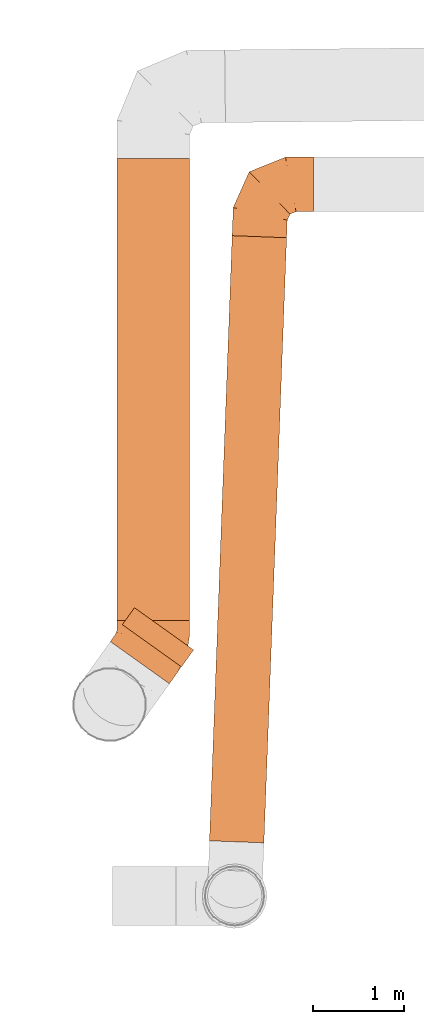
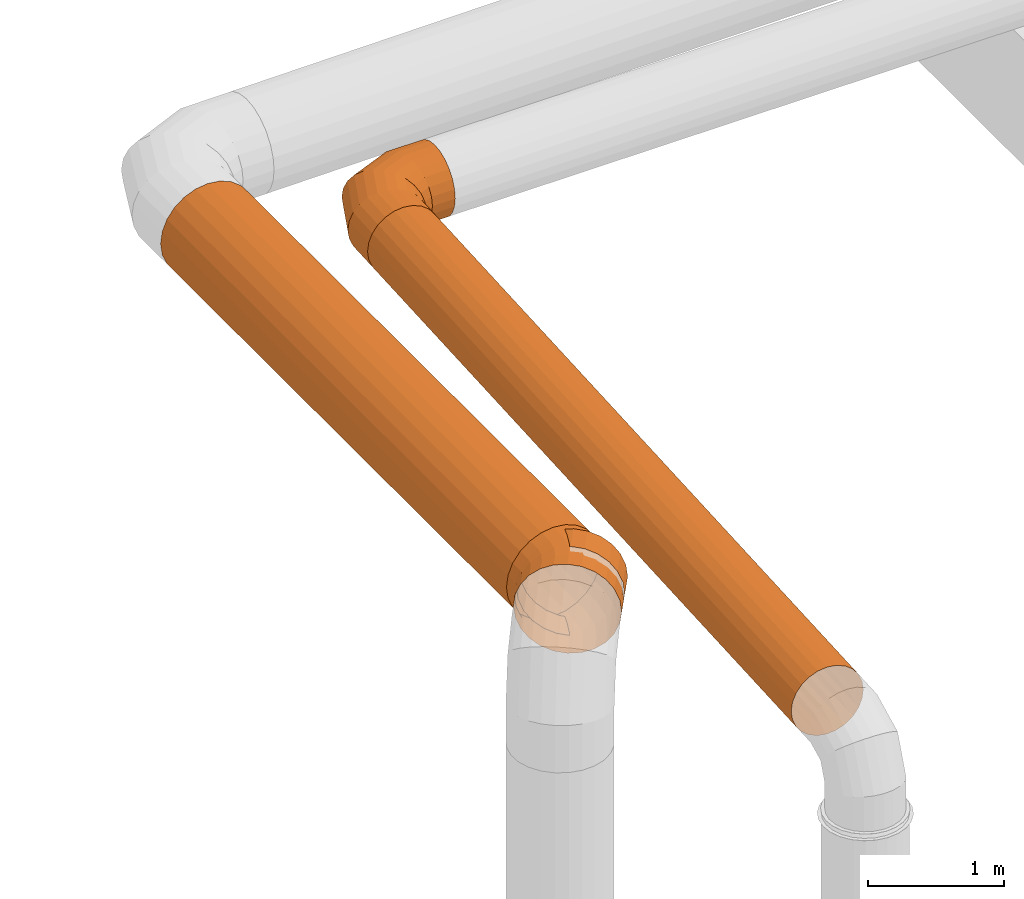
# One storey, part 291 of 301: 5 proxies.
"""IFC2X3 building model written with IfcOpenShell, lengths in millimetres."""

from ifc_helpers import new_model, entity, si_unit, converted_unit, derived_unit, money_unit, direction, frame, origin_with_axes, place, context, subcontext, project, spatial, open_shell, surface_model, type_object, element, save


model = new_model("IFC2X3")

# Units and contexts
model_context = context("Model", 3, precision=0.01, world=origin_with_axes(), true_north=direction((0.0, 1.0)))
body_context = subcontext(model_context, "Body", "Model", "MODEL_VIEW")
ifc_project = project(units=[si_unit("LENGTHUNIT", "METRE", prefix="MILLI"), si_unit("AREAUNIT", "SQUARE_METRE"), si_unit("VOLUMEUNIT", "CUBIC_METRE"), converted_unit("PLANEANGLEUNIT", "DEGREE", entity("IfcPlaneAngleMeasure", 0.0174532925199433), si_unit("PLANEANGLEUNIT", "RADIAN"), dimensions=[0, 0, 0, 0, 0, 0, 0]), money_unit("EUR"), converted_unit("TIMEUNIT", "Year", entity("IfcTimeMeasure", 31557600.0), si_unit("TIMEUNIT", "SECOND"), dimensions=[0, 0, 1, 0, 0, 0, 0]), si_unit("MASSUNIT", "GRAM", prefix="KILO"), si_unit("THERMODYNAMICTEMPERATUREUNIT", "DEGREE_CELSIUS"), si_unit("LUMINOUSINTENSITYUNIT", "LUMEN"), si_unit("ENERGYUNIT", "JOULE", prefix="MEGA"), derived_unit("THERMALCONDUCTANCEUNIT", [(si_unit("POWERUNIT", "WATT"), 1), (si_unit("LENGTHUNIT", "METRE"), -1), (si_unit("THERMODYNAMICTEMPERATUREUNIT", "KELVIN"), -1)]), derived_unit("SPECIFICHEATCAPACITYUNIT", [(si_unit("ENERGYUNIT", "JOULE"), 1), (si_unit("MASSUNIT", "GRAM", prefix="KILO"), -1), (si_unit("THERMODYNAMICTEMPERATUREUNIT", "KELVIN"), -1)]), derived_unit("MASSDENSITYUNIT", [(si_unit("MASSUNIT", "GRAM", prefix="KILO"), 1), (si_unit("VOLUMEUNIT", "CUBIC_METRE"), -1)])], contexts=[model_context])

# Site, building, storey
site_placement = place(None, frame((0.0, 0.0, 8650.0), z_axis=(0.0, 0.0, 1.0), x_axis=(1.0, 0.0, 0.0)))
site = spatial("IfcSite", under=ifc_project, at=site_placement, Name="43301:001:0844", CompositionType="ELEMENT")
building_placement = place(site_placement, origin_with_axes())
building = spatial("IfcBuilding", under=site, at=building_placement, Name="Kuressaare Ametikooli tuulikute mehaanikute õppekorpus", CompositionType="ELEMENT")
storey_placement = place(building_placement, origin_with_axes())
storey = spatial("IfcBuildingStorey", under=building, at=storey_placement, Name="1.korrus", CompositionType="ELEMENT", Elevation=0.0)

# Proxies
building_element_proxy_type = type_object("IfcBuildingElementProxyType", Name="IfcBuildingElementProxy", PredefinedType="NOTDEFINED")
proxy_1_placement = place(storey_placement, frame((70808.29751720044, 44112.69956190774, 6479.025789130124), z_axis=(1.0, 0.0, 0.0), x_axis=(0.0, 1.0, 0.0)))
element("IfcBuildingElementProxy", 1, at=proxy_1_placement, inside=storey, type_object=building_element_proxy_type, context=body_context, shape_type="SurfaceModel", body=[
    surface_model("IfcShellBasedSurfaceModel", [(0.0, -400.9999999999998, 0.0), (0.0, -387.3362563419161, -103.7864370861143), (5100.980131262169, -387.3362563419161, -103.7864370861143), (5100.980131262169, -400.9999999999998, 0.0), (0.0, -347.2761869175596, -200.5000000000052), (5100.980131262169, -347.2761869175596, -200.5000000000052), (0.0, -387.3362563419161, 103.7864370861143), (5100.980131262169, -387.3362563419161, 103.7864370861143), (0.0, -283.5498192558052, -283.5498192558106), (5100.980131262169, -283.5498192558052, -283.5498192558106), (0.0, -347.2761869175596, 200.5000000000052), (5100.980131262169, -347.2761869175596, 200.5000000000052), (0.0, -200.4999999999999, -347.2761869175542), (5100.980131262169, -200.4999999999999, -347.2761869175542), (0.0, -283.5498192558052, 283.5498192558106), (5100.980131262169, -283.5498192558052, 283.5498192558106), (0.0, -103.7864370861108, -387.3362563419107), (5100.980131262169, -103.7864370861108, -387.3362563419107), (0.0, -200.4999999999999, 347.2761869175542), (5100.980131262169, -200.4999999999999, 347.2761869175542), (0.0, 0.0, -400.9999999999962), (5100.980131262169, 0.0, -400.9999999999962), (0.0, -103.7864370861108, 387.3362563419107), (5100.980131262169, -103.7864370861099, 387.3362563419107), (0.0, 103.7864370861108, -387.3362563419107), (5100.980131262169, 103.7864370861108, -387.3362563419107), (0.0, 0.0, 400.9999999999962), (5100.980131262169, 0.0, 400.9999999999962), (0.0, 200.4999999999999, -347.2761869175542), (5100.980131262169, 200.4999999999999, -347.2761869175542), (0.0, 103.7864370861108, 387.3362563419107), (5100.980131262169, 103.7864370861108, 387.3362563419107), (0.0, 283.5498192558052, -283.5498192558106), (5100.980131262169, 283.5498192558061, -283.5498192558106), (0.0, 200.4999999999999, 347.2761869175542), (5100.980131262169, 200.5000000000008, 347.2761869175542), (0.0, 347.2761869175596, -200.5000000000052), (5100.980131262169, 347.2761869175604, -200.5000000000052), (0.0, 283.5498192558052, 283.5498192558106), (5100.980131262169, 283.5498192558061, 283.5498192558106), (0.0, 387.3362563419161, -103.7864370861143), (5100.980131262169, 387.3362563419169, -103.7864370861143), (0.0, 347.2761869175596, 200.5000000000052), (5100.980131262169, 347.2761869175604, 200.5000000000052), (0.0, 400.9999999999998, 0.0), (5100.980131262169, 401.0000000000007, 0.0), (0.0, 387.3362563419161, 103.7864370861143), (5100.980131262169, 387.3362563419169, 103.7864370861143)], [open_shell([[[0, 1, 2, 3]], [[1, 4, 5, 2]], [[6, 0, 3, 7]], [[4, 8, 9, 5]], [[10, 6, 7, 11]], [[8, 12, 13, 9]], [[14, 10, 11, 15]], [[12, 16, 17, 13]], [[18, 14, 15, 19]], [[16, 20, 21, 17]], [[22, 18, 19, 23]], [[20, 24, 25, 21]], [[26, 22, 23, 27]], [[24, 28, 29, 25]], [[30, 26, 27, 31]], [[28, 32, 33, 29]], [[34, 30, 31, 35]], [[32, 36, 37, 33]], [[38, 34, 35, 39]], [[36, 40, 41, 37]], [[42, 38, 39, 43]], [[40, 44, 45, 41]], [[46, 42, 43, 47]], [[44, 46, 47, 45]]])]),
])
proxy_2_placement = place(storey_placement, frame((70659.32821880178, 43647.77050756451, 6479.025789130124), z_axis=(1.0, 0.0, 0.0), x_axis=(0.0, 1.0, 0.0)))
element("IfcBuildingElementProxy", 2, at=proxy_2_placement, inside=storey, type_object=building_element_proxy_type, context=body_context, shape_type="SurfaceModel", body=[
    surface_model("IfcShellBasedSurfaceModel", [(233.0456884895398, 0.0, -326.329139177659), (225.1048492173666, 103.7864370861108, -315.2097434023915), (303.0014873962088, 103.7864370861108, -259.5804002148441), (310.0786272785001, 0.0, -271.3166009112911), (201.8234864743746, 200.4999999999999, -282.6093245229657), (282.2523631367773, 200.4999999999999, -225.1716008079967), (334.4470136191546, 103.7864370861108, -243.7998664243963), (338.6668801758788, 0.0, -256.9699530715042), (225.1048492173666, -103.7864370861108, -315.2097434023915), (303.0014873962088, -103.7864370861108, -259.5804002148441), (164.7881866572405, 283.5498192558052, -230.749547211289), (249.2452730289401, 283.5498192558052, -170.4351055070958), (322.0749908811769, 200.4999999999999, -205.1871261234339), (369.2080531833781, 103.7864370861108, -238.3669579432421), (370.2693848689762, 0.0, -252.0307016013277), (334.4470136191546, -103.7864370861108, -243.7998664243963), (201.8234864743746, -200.5000000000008, -282.6093245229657), (282.2523631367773, -200.5000000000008, -225.1716008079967), (116.5228442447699, 347.2761869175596, -163.1645695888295), (206.2295957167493, 347.2761869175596, -99.1011160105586), (302.3939448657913, 283.5498192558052, -143.7631266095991), (366.0963861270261, 200.4999999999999, -198.3068885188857), (464.929054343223, 103.7864370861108, -238.3669579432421), (464.929054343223, 0.0, -252.0307016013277), (369.2080531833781, -103.7864370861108, -238.3669579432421), (322.0749908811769, -200.5000000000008, -205.1871261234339), (164.7881866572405, -283.5498192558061, -230.749547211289), (249.2452730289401, -283.5498192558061, -170.4351055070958), (60.31666256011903, 387.3362563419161, -84.46019619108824), (156.1367785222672, 387.3362563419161, -16.03092581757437), (276.7451063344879, 347.2761869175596, -63.71381194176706), (361.1464386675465, 283.5498192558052, -134.5805208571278), (464.929054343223, 200.4999999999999, -198.3068885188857), (464.929054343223, -103.7864370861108, -238.3669579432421), (366.0963861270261, -200.5000000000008, -198.3068885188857), (302.3939448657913, -283.5498192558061, -143.7631266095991), (116.5228442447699, -347.2761869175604, -163.1645695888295), (206.2295957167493, -347.2761869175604, -99.1011160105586), (0.0, 400.9999999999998, 0.0), (102.3805641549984, 400.9999999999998, 73.11436889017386), (246.8764012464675, 387.3362563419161, 29.50558937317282), (354.6955415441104, 347.2761869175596, -51.53070160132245), (464.929054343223, 283.5498192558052, -134.5805208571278), (464.929054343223, -200.5000000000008, -198.3068885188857), (361.1464386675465, -283.5498192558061, -134.5805208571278), (276.7451063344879, -347.2761869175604, -63.71381194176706), (60.31666256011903, -387.3362563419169, -84.46019619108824), (156.1367785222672, -387.3362563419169, -16.03092581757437), (-60.31666256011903, 387.3362563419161, 84.46019619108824), (48.62434978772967, 387.3362563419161, 162.2596635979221), (214.823332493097, 400.9999999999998, 129.54232918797), (347.1833127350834, 387.3362563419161, 45.18286131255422), (464.929054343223, 347.2761869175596, -51.53070160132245), (464.929054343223, -283.5498192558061, -134.5805208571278), (354.6955415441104, -347.2761869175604, -51.53070160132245), (246.8764012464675, -387.3362563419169, 29.50558937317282), (0.0, -400.9999999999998, 0.0), (102.3805641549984, -400.9999999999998, 73.11436889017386), (-116.5228442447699, 347.2761869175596, 163.1645695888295), (-1.468467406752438, 347.2761869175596, 245.3298537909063), (182.7702637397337, 387.3362563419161, 229.5790690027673), (339.1216982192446, 400.9999999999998, 148.9692983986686), (464.929054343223, 387.3362563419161, 45.18286131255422), (464.929054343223, -347.2761869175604, -51.53070160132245), (347.1833127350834, -387.3362563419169, 45.18286131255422), (214.823332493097, -400.9999999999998, 129.54232918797), (-60.31666256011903, -387.3362563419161, 84.46019619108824), (48.62434978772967, -387.3362563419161, 162.2596635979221), (-164.7881866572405, 283.5498192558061, 230.749547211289), (-44.48414471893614, 283.5498192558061, 316.6638432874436), (152.9015586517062, 347.2761869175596, 322.7984703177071), (331.060083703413, 387.3362563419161, 252.7557354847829), (464.929054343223, 400.9999999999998, 148.9692983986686), (464.929054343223, -387.3362563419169, 45.18286131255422), (339.1216982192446, -400.9999999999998, 148.9692983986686), (182.7702637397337, -387.3362563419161, 229.5790690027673), (-116.5228442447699, -347.2761869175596, 163.1645695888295), (-1.468467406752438, -347.2761869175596, 245.3298537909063), (-201.8234864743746, 200.4999999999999, 282.6093245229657), (-77.49123482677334, 200.4999999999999, 371.4003385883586), (127.2527201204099, 283.5498192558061, 402.8477849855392), (323.5478548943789, 347.2761869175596, 349.4692983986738), (464.929054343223, 387.3362563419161, 252.7557354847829), (464.929054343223, -400.9999999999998, 148.9692983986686), (331.060083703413, -387.3362563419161, 252.7557354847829), (152.9015586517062, -347.2761869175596, 322.7984703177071), (-164.7881866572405, -283.5498192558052, 230.7495472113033), (-44.48414471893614, -283.5498192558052, 316.6638432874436), (-225.1048492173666, 103.7864370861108, 315.2097434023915), (-98.24035908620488, 103.7864370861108, 405.8091379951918), (107.5716741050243, 200.4999999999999, 464.271784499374), (317.0969577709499, 283.5498192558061, 432.5191176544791), (464.929054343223, 347.2761869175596, 349.4692983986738), (464.929054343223, -387.3362563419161, 252.7557354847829), (323.5478548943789, -347.2761869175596, 349.4692983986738), (127.2527201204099, -283.5498192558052, 402.8477849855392), (-201.8234864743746, -200.4999999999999, 282.6093245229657), (-77.49123482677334, -200.4999999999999, 371.4003385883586), (-233.0456884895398, 0.0, 326.329139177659), (-105.3174989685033, 0.0, 417.5453386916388), (95.19965136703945, 103.7864370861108, 502.8845248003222), (312.1470103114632, 200.4999999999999, 496.245485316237), (464.929054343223, 283.5498192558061, 432.5191176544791), (464.929054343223, -347.2761869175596, 349.4692983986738), (317.0969577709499, -283.5498192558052, 432.5191176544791), (107.5716741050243, -200.4999999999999, 464.271784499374), (-225.1048492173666, -103.7864370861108, 315.2097434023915), (-98.24035908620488, -103.7864370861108, 405.8091379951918), (90.97978481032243, 0.0, 516.0546114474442), (309.0353432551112, 103.7864370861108, 536.3055547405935), (464.929054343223, 200.4999999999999, 496.245485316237), (464.929054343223, -283.5498192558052, 432.5191176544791), (312.1470103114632, -200.4999999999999, 496.245485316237), (95.19965136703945, -103.7864370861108, 502.8845248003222), (307.9740115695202, 0.0, 549.9692983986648), (464.929054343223, 103.7864370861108, 536.3055547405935), (464.929054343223, -200.4999999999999, 496.245485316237), (309.0353432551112, -103.7864370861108, 536.3055547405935), (464.929054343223, 0.0, 549.9692983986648), (464.929054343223, -103.7864370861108, 536.3055547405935)], [open_shell([[[0, 1, 2, 3]], [[1, 4, 5, 2]], [[3, 2, 6, 7]], [[8, 0, 3, 9]], [[4, 10, 11, 5]], [[2, 5, 12, 6]], [[7, 6, 13, 14]], [[9, 3, 7, 15]], [[16, 8, 9, 17]], [[10, 18, 19, 11]], [[5, 11, 20, 12]], [[6, 12, 21, 13]], [[14, 13, 22, 23]], [[15, 7, 14, 24]], [[17, 9, 15, 25]], [[26, 16, 17, 27]], [[18, 28, 29, 19]], [[11, 19, 30, 20]], [[12, 20, 31, 21]], [[13, 21, 32, 22]], [[24, 14, 23, 33]], [[25, 15, 24, 34]], [[27, 17, 25, 35]], [[36, 26, 27, 37]], [[28, 38, 39, 29]], [[19, 29, 40, 30]], [[20, 30, 41, 31]], [[21, 31, 42, 32]], [[34, 24, 33, 43]], [[35, 25, 34, 44]], [[37, 27, 35, 45]], [[46, 36, 37, 47]], [[38, 48, 49, 39]], [[29, 39, 50, 40]], [[30, 40, 51, 41]], [[31, 41, 52, 42]], [[44, 34, 43, 53]], [[45, 35, 44, 54]], [[47, 37, 45, 55]], [[56, 46, 47, 57]], [[48, 58, 59, 49]], [[39, 49, 60, 50]], [[40, 50, 61, 51]], [[41, 51, 62, 52]], [[54, 44, 53, 63]], [[55, 45, 54, 64]], [[57, 47, 55, 65]], [[66, 56, 57, 67]], [[58, 68, 69, 59]], [[49, 59, 70, 60]], [[50, 60, 71, 61]], [[51, 61, 72, 62]], [[64, 54, 63, 73]], [[65, 55, 64, 74]], [[67, 57, 65, 75]], [[76, 66, 67, 77]], [[68, 78, 79, 69]], [[59, 69, 80, 70]], [[60, 70, 81, 71]], [[61, 71, 82, 72]], [[74, 64, 73, 83]], [[75, 65, 74, 84]], [[77, 67, 75, 85]], [[86, 76, 77, 87]], [[78, 88, 89, 79]], [[69, 79, 90, 80]], [[70, 80, 91, 81]], [[71, 81, 92, 82]], [[84, 74, 83, 93]], [[85, 75, 84, 94]], [[87, 77, 85, 95]], [[96, 86, 87, 97]], [[88, 98, 99, 89]], [[79, 89, 100, 90]], [[80, 90, 101, 91]], [[81, 91, 102, 92]], [[94, 84, 93, 103]], [[95, 85, 94, 104]], [[97, 87, 95, 105]], [[106, 96, 97, 107]], [[98, 106, 107, 99]], [[89, 99, 108, 100]], [[90, 100, 109, 101]], [[91, 101, 110, 102]], [[104, 94, 103, 111]], [[105, 95, 104, 112]], [[107, 97, 105, 113]], [[99, 107, 113, 108]], [[100, 108, 114, 109]], [[101, 109, 115, 110]], [[112, 104, 111, 116]], [[113, 105, 112, 117]], [[108, 113, 117, 114]], [[109, 114, 118, 115]], [[117, 112, 116, 119]], [[114, 117, 119, 118]]])]),
])
proxy_3_placement = place(storey_placement, frame((70792.67537424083, 43834.49381803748, 6479.025789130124), z_axis=(1.0, 0.0, 0.0), x_axis=(0.0, 1.0, 0.0)))
element("IfcBuildingElementProxy", 3, at=proxy_3_placement, inside=storey, type_object=building_element_proxy_type, context=body_context, shape_type="SurfaceModel", body=[
    surface_model("IfcShellBasedSurfaceModel", [(0.0, -400.9999999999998, 0.0), (60.31666256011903, -387.3362563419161, -84.46019619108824), (247.0399730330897, -387.3362563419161, 48.88695924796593), (186.7233104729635, -400.9999999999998, 133.3471554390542), (116.5228442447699, -347.2761869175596, -163.1645695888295), (303.2461547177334, -347.2761869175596, -29.81741414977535), (-60.31666256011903, -387.3362563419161, 84.46019619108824), (126.4066479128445, -387.3362563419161, 217.8073516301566), (164.7881866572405, -283.5498192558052, -230.7495472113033), (351.5114971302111, -283.5498192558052, -97.40239177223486), (-116.5228442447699, -347.2761869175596, 163.1645695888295), (70.20046622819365, -347.2761869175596, 296.5117250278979), (201.8234864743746, -200.4999999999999, -282.6093245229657), (388.5467969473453, -200.4999999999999, -149.2621690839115), (-164.7881866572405, -283.5498192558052, 230.7495472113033), (21.93512381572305, -283.5498192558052, 364.0967026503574), (225.1048492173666, -103.7864370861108, -315.2097434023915), (411.8281596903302, -103.7864370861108, -181.8625879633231), (-201.8234864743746, -200.4999999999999, 282.6093245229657), (-15.10017600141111, -200.4999999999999, 415.9564799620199), (233.0456884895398, 0.0, -326.329139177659), (419.7689989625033, 0.0, -192.9819837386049), (-225.1048492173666, -103.7864370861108, 315.2097434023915), (-38.38153874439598, -103.7864370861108, 448.5568988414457), (225.1048492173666, 103.7864370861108, -315.2097434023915), (411.8281596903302, 103.7864370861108, -181.8625879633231), (-233.0456884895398, 0.0, 326.329139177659), (-46.32237801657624, 0.0, 459.6762946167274), (201.8234864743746, 200.4999999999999, -282.6093245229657), (388.5467969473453, 200.4999999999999, -149.2621690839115), (-225.1048492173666, 103.7864370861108, 315.2097434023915), (-38.38153874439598, 103.7864370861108, 448.5568988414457), (164.7881866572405, 283.5498192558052, -230.7495472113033), (351.5114971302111, 283.5498192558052, -97.40239177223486), (-201.8234864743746, 200.4999999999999, 282.6093245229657), (-15.10017600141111, 200.4999999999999, 415.9564799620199), (116.5228442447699, 347.2761869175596, -163.1645695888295), (303.2461547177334, 347.2761869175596, -29.81741414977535), (-164.7881866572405, 283.5498192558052, 230.749547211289), (21.93512381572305, 283.5498192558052, 364.0967026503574), (60.31666256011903, 387.3362563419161, -84.46019619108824), (247.0399730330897, 387.3362563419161, 48.88695924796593), (-116.5228442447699, 347.2761869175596, 163.1645695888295), (70.20046622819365, 347.2761869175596, 296.5117250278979), (0.0, 400.9999999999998, 0.0), (186.7233104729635, 400.9999999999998, 133.3471554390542), (-60.31666256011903, 387.3362563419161, 84.46019619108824), (126.4066479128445, 387.3362563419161, 217.8073516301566)], [open_shell([[[0, 1, 2, 3]], [[1, 4, 5, 2]], [[6, 0, 3, 7]], [[4, 8, 9, 5]], [[10, 6, 7, 11]], [[8, 12, 13, 9]], [[14, 10, 11, 15]], [[12, 16, 17, 13]], [[18, 14, 15, 19]], [[16, 20, 21, 17]], [[22, 18, 19, 23]], [[20, 24, 25, 21]], [[26, 22, 23, 27]], [[24, 28, 29, 25]], [[30, 26, 27, 31]], [[28, 32, 33, 29]], [[34, 30, 31, 35]], [[32, 36, 37, 33]], [[38, 34, 35, 39]], [[36, 40, 41, 37]], [[42, 38, 39, 43]], [[40, 44, 45, 41]], [[46, 42, 43, 47]], [[44, 46, 47, 45]]])]),
])
proxy_4_placement = place(storey_placement, frame((71728.9352686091, 41669.13201647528, 6479.025789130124), z_axis=(1.0, 0.0, 0.0), x_axis=(0.0, 1.0, 0.0)))
element("IfcBuildingElementProxy", 4, at=proxy_4_placement, inside=storey, type_object=building_element_proxy_type, context=body_context, shape_type="SurfaceModel", body=[
    surface_model("IfcShellBasedSurfaceModel", [(0.0, -301.0000000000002, 0.0), (2.916778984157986, -290.7436737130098, -77.84991070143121), (6685.63515775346, -290.7436737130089, 172.529471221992), (6682.718378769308, -300.9999999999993, 250.3793819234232), (5.634784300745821, -260.6736465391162, -150.3944786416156), (6688.353163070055, -260.6736465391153, 99.98490328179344), (-2.916778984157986, -290.7436737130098, 77.84991070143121), (6679.801599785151, -290.7436737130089, 328.2292926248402), (7.968788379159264, -212.8391411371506, -212.6899114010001), (6690.687167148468, -212.8391411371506, 37.6894705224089), (-5.634784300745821, -260.6736465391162, 150.3944786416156), (6677.083594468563, -260.6736465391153, 400.7738605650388), (9.759732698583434, -150.5000000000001, -260.4908781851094), (6692.478111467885, -150.4999999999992, -10.11149626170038), (-7.968788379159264, -212.8391411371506, 212.6899114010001), (6674.749590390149, -212.8391411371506, 463.0692933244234), (10.88556736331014, -77.90453257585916, -290.5398221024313), (6693.603946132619, -77.90453257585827, -40.16044017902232), (-9.759732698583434, -150.5000000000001, 260.4908781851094), (6672.958646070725, -150.4999999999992, 510.8702601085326), (11.26956860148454, 0.0, -300.7889572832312), (6693.987947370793, 0.0, -50.40957535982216), (-10.88556736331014, -77.90453257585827, 290.5398221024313), (6671.832811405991, -77.90453257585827, 540.9192040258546), (10.88556736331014, 77.90453257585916, -290.5398221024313), (6693.603946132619, 77.90453257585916, -40.16044017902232), (-11.26956860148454, 0.0, 300.7889572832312), (6671.448810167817, 0.0, 551.1683392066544), (9.759732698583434, 150.5000000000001, -260.4908781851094), (6692.478111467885, 150.5000000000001, -10.11149626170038), (-10.88556736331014, 77.90453257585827, 290.5398221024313), (6671.832811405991, 77.90453257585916, 540.9192040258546), (7.968788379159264, 212.8391411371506, -212.6899114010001), (6690.687167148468, 212.8391411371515, 37.6894705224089), (-9.759732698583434, 150.5000000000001, 260.4908781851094), (6672.958646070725, 150.500000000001, 510.8702601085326), (5.634784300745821, 260.6736465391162, -150.3944786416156), (6688.353163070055, 260.6736465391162, 99.98490328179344), (-7.968788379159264, 212.8391411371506, 212.6899114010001), (6674.749590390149, 212.8391411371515, 463.0692933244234), (2.916778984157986, 290.7436737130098, -77.84991070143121), (6685.63515775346, 290.7436737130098, 172.529471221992), (-5.634784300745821, 260.6736465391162, 150.3944786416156), (6677.083594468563, 260.6736465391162, 400.7738605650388), (0.0, 301.0000000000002, 0.0), (6682.718378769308, 301.0000000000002, 250.3793819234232), (-2.916778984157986, 290.7436737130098, 77.84991070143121), (6679.801599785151, 290.7436737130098, 328.2292926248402)], [open_shell([[[0, 1, 2, 3]], [[1, 4, 5, 2]], [[6, 0, 3, 7]], [[4, 8, 9, 5]], [[10, 6, 7, 11]], [[8, 12, 13, 9]], [[14, 10, 11, 15]], [[12, 16, 17, 13]], [[18, 14, 15, 19]], [[16, 20, 21, 17]], [[22, 18, 19, 23]], [[20, 24, 25, 21]], [[26, 22, 23, 27]], [[24, 28, 29, 25]], [[30, 26, 27, 31]], [[28, 32, 33, 29]], [[34, 30, 31, 35]], [[32, 36, 37, 33]], [[38, 34, 35, 39]], [[36, 40, 41, 37]], [[42, 38, 39, 43]], [[40, 44, 45, 41]], [[46, 42, 43, 47]], [[44, 46, 47, 45]]])]),
])
proxy_5_placement = place(storey_placement, frame((71979.31465053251, 48351.85039524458, 6479.025789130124), z_axis=(1.0, 0.0, 0.0), x_axis=(0.0, 1.0, 0.0)))
element("IfcBuildingElementProxy", 5, at=proxy_5_placement, inside=storey, type_object=building_element_proxy_type, context=body_context, shape_type="SurfaceModel", body=[
    surface_model("IfcShellBasedSurfaceModel", [(-11.26956859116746, -0.01288260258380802, 300.7889570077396), (-10.88544251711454, -77.91697614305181, 290.5364899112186), (185.189035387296, -77.91697614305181, 297.8827528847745), (182.8160595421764, -0.01288260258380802, 308.0607043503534), (-9.759491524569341, -150.5111565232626, 260.4844411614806), (192.1459988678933, -150.5111565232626, 268.0491729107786), (257.2602101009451, -77.91824009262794, 330.1357269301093), (249.2951707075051, -0.01404848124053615, 337.8111427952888), (-10.88569218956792, 77.89208886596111, 290.5431537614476), (185.1887857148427, 77.89208886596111, 297.8894167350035), (-7.968447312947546, -212.8482503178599, 212.6808082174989), (203.2128444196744, -212.8482503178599, 220.5930736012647), (280.6122743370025, -150.5127080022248, 307.6392100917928), (286.7921947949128, -77.92132469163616, 403.3639348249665), (276.5357436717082, -0.01689374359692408, 405.3575119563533), (257.2599604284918, 77.89082491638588, 330.1423907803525), (-9.759973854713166, 150.488843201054, 260.4973147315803), (192.1455165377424, 150.488843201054, 268.0620464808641), (-5.63436658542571, -260.6800876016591, 150.3833296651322), (217.6353848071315, -260.6800876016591, 158.7485096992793), (317.7599588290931, -212.8502591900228, 271.8546927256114), (316.8623382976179, -150.5164943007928, 397.5257262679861), (286.7921947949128, -77.92971655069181, 599.575984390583), (276.5357436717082, -0.0252004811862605, 599.5793163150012), (286.7919451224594, 77.88774031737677, 403.3705986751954), (280.6117920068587, 150.4872917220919, 307.6520836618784), (-7.969129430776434, 212.8300315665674, 212.6990141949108), (203.2121623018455, 212.8300315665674, 220.6112795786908), (-2.916313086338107, -290.7470077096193, 77.83747571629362), (234.4307477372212, -290.7470077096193, 86.73008603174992), (366.1717102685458, -260.6826925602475, 225.2208305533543), (364.6969435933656, -212.8551617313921, 388.2407505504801), (316.8623382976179, -150.5251357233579, 599.5728795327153), (286.7919451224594, 77.879348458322, 599.5826482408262), (316.861855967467, 150.4835054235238, 397.5385998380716), (317.7592767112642, 212.8280226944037, 271.8728987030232), (-5.635202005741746, 260.6672049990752, 150.4056273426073), (217.6345493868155, 260.6672049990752, 158.7708073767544), (0.0004823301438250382, -300.9999997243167, -0.01287357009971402), (252.4543569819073, -300.9999997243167, 9.445739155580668), (422.5483477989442, -290.7503068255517, 170.9156442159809), (427.0361613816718, -260.6890498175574, 376.1417634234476), (364.6969435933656, -212.864200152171, 599.5702133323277), (316.861855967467, 150.4748640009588, 599.585753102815), (364.6962614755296, 212.8231201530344, 388.258956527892), (366.1708748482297, 260.6646000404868, 225.2431282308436), (-2.917244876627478, 290.740339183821, 77.86234554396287), (234.4298159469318, 290.740339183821, 86.75495585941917), (2.917244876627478, -290.740339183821, -77.86234554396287), (270.4779333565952, -290.740339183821, -67.83773040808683), (483.0478967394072, -301.0040437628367, 112.6399424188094), (499.6316769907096, -290.758358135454, 362.0532908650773), (427.0361613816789, -260.6986056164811, 599.5681674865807), (364.6962614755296, 212.8140817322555, 599.5884193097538), (427.0353259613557, 260.6582427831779, 376.1640611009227), (422.547416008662, 290.7370400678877, 170.9405140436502), (-0.0004823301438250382, 300.9999997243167, 0.01287357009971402), (252.4533923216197, 300.9999997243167, 9.471486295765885), (5.635202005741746, -260.6672049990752, -150.4056273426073), (287.2731999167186, -260.6672049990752, -139.8535819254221), (543.5474128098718, -290.7451281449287, 54.36511793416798), (577.5362260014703, -301.0139130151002, 346.9354389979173), (499.6316769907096, -290.7685164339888, 599.5668814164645), (427.0353259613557, 260.6486869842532, 599.5904651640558), (499.6307452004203, 290.7289887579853, 362.0781606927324), (483.0469320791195, 300.9959556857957, 112.6656895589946), (2.916313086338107, 290.7470077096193, -77.83747571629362), (270.4770015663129, 290.7470077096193, -67.81286058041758), (7.969129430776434, -212.8300315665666, -212.6990141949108), (301.6955870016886, -212.8300315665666, -201.6940541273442), (599.9239539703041, -260.6726881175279, 0.06250374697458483), (655.4407421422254, -290.7568153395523, 331.8184644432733), (577.5362260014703, -301.0247178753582, 599.5664427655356), (499.6307452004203, 290.7188304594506, 599.5917512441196), (577.5352613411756, 300.9860864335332, 346.9611861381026), (543.5464810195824, 290.7422187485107, 54.38998776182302), (5.63436658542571, 260.6800876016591, -150.3833296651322), (287.2723644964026, 260.6800876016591, -139.8312842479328), (9.759973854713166, -150.488843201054, -260.4973147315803), (312.7622327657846, -150.488843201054, -249.1448210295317), (648.3355521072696, -212.8361107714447, -46.56726672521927), (728.03616138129, -260.6860693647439, 317.732564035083), (655.4407421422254, -290.7682667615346, 599.5668814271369), (577.5352613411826, 300.9752815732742, 599.5921899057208), (655.4398103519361, 290.7305315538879, 331.8433342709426), (599.923118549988, 260.6746044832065, 0.08480142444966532), (7.968447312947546, 212.848250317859, -212.6808082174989), (301.6949048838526, 212.848250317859, -201.6758481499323), (10.88569218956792, -77.89208886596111, -290.5431537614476), (319.7189635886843, -77.89208886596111, -278.9721912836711), (685.4830368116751, -150.4953797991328, -82.34645168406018), (790.3752258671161, -212.8509467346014, 305.6376686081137), (728.03616138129, -260.6981232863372, 599.5681675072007), (655.4398103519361, 290.7190801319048, 599.5917512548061), (728.035325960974, 260.6612232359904, 317.7548617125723), (648.3348699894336, 212.8421711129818, -46.54906074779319), (9.759491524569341, 150.5111565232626, -260.4844411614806), (312.7617504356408, 150.5111565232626, -249.131947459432), (11.26956859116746, 0.01288260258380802, -300.7889570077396), (322.0916897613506, 0.01288260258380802, -289.143478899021), (708.8348683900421, -77.89891299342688, -104.8367588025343), (838.2096313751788, -150.5113320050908, 296.3580252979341), (790.3752258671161, -212.8635180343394, 599.5702133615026), (728.035325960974, 260.6491693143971, 599.59046518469), (790.3745437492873, 212.8273351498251, 305.6558745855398), (685.4825544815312, 150.5046199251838, -82.33357811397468), (10.88544251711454, 77.91697614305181, -290.5364899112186), (319.718713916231, 77.91697614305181, -278.9655274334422), (716.7996581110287, 0.005960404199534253, -112.5055108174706), (868.2795422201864, -77.91556689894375, 290.5260264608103), (838.2096313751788, -150.5243003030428, 599.5728795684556), (790.3745437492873, 212.814763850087, 599.5884193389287), (838.209149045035, 150.4886677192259, 296.3708988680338), (708.8346187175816, 77.91015201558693, -104.8300949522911), (878.5357436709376, -0.01093283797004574, 288.5391131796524), (868.2795422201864, -77.92878476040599, 599.5759844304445), (838.209149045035, 150.4756994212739, 599.5857531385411), (868.2792925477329, 77.89349811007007, 290.5326903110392), (878.5357436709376, -0.02423582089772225, 599.5793163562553), (868.2792925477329, 77.88028024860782, 599.5826482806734)], [open_shell([[[0, 1, 2, 3]], [[1, 4, 5, 2]], [[3, 2, 6, 7]], [[8, 0, 3, 9]], [[4, 10, 11, 5]], [[2, 5, 12, 6]], [[7, 6, 13, 14]], [[9, 3, 7, 15]], [[16, 8, 9, 17]], [[10, 18, 19, 11]], [[5, 11, 20, 12]], [[6, 12, 21, 13]], [[14, 13, 22, 23]], [[15, 7, 14, 24]], [[17, 9, 15, 25]], [[26, 16, 17, 27]], [[18, 28, 29, 19]], [[11, 19, 30, 20]], [[12, 20, 31, 21]], [[13, 21, 32, 22]], [[24, 14, 23, 33]], [[25, 15, 24, 34]], [[27, 17, 25, 35]], [[36, 26, 27, 37]], [[28, 38, 39, 29]], [[19, 29, 40, 30]], [[20, 30, 41, 31]], [[21, 31, 42, 32]], [[34, 24, 33, 43]], [[35, 25, 34, 44]], [[37, 27, 35, 45]], [[46, 36, 37, 47]], [[38, 48, 49, 39]], [[29, 39, 50, 40]], [[30, 40, 51, 41]], [[31, 41, 52, 42]], [[44, 34, 43, 53]], [[45, 35, 44, 54]], [[47, 37, 45, 55]], [[56, 46, 47, 57]], [[48, 58, 59, 49]], [[39, 49, 60, 50]], [[40, 50, 61, 51]], [[41, 51, 62, 52]], [[54, 44, 53, 63]], [[55, 45, 54, 64]], [[57, 47, 55, 65]], [[66, 56, 57, 67]], [[58, 68, 69, 59]], [[49, 59, 70, 60]], [[50, 60, 71, 61]], [[51, 61, 72, 62]], [[64, 54, 63, 73]], [[65, 55, 64, 74]], [[67, 57, 65, 75]], [[76, 66, 67, 77]], [[68, 78, 79, 69]], [[59, 69, 80, 70]], [[60, 70, 81, 71]], [[61, 71, 82, 72]], [[74, 64, 73, 83]], [[75, 65, 74, 84]], [[77, 67, 75, 85]], [[86, 76, 77, 87]], [[78, 88, 89, 79]], [[69, 79, 90, 80]], [[70, 80, 91, 81]], [[71, 81, 92, 82]], [[84, 74, 83, 93]], [[85, 75, 84, 94]], [[87, 77, 85, 95]], [[96, 86, 87, 97]], [[88, 98, 99, 89]], [[79, 89, 100, 90]], [[80, 90, 101, 91]], [[81, 91, 102, 92]], [[94, 84, 93, 103]], [[95, 85, 94, 104]], [[97, 87, 95, 105]], [[106, 96, 97, 107]], [[98, 106, 107, 99]], [[89, 99, 108, 100]], [[90, 100, 109, 101]], [[91, 101, 110, 102]], [[104, 94, 103, 111]], [[105, 95, 104, 112]], [[107, 97, 105, 113]], [[99, 107, 113, 108]], [[100, 108, 114, 109]], [[101, 109, 115, 110]], [[112, 104, 111, 116]], [[113, 105, 112, 117]], [[108, 113, 117, 114]], [[109, 114, 118, 115]], [[117, 112, 116, 119]], [[114, 117, 119, 118]]])]),
])

save(model, "model.ifc")
